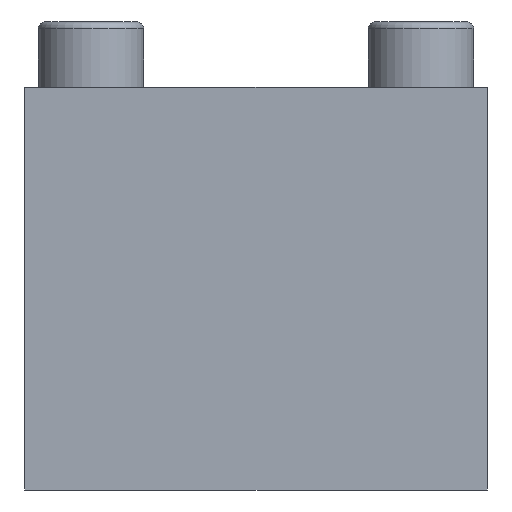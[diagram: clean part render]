
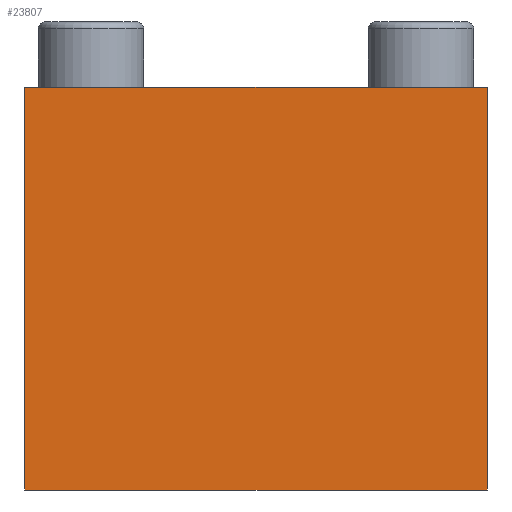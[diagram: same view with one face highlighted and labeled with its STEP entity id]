
A CAD part, front view. The second image highlights one B-rep face of the part: STEP entity #23807.
In plain terms, the highlighted planar face has unit normal (0, -1, 0).
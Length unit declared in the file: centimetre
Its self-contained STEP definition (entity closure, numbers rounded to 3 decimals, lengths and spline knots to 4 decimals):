
#2525=FACE_OUTER_BOUND('',#3805,.T.);
#3805=EDGE_LOOP('',(#16159,#16160,#16161,#16162));
#5257=LINE('',#30826,#7861);
#5261=LINE('',#30835,#7865);
#5262=LINE('',#30836,#7866);
#5263=LINE('',#30837,#7867);
#7861=VECTOR('',#26139,6.1);
#7865=VECTOR('',#26145,6.1);
#7866=VECTOR('',#26146,7.);
#7867=VECTOR('',#26147,7.);
#10529=VERTEX_POINT('',#30824);
#10530=VERTEX_POINT('',#30825);
#10533=VERTEX_POINT('',#30833);
#10534=VERTEX_POINT('',#30834);
#12789=EDGE_CURVE('',#10529,#10530,#5257,.T.);
#12793=EDGE_CURVE('',#10533,#10534,#5261,.T.);
#12794=EDGE_CURVE('',#10529,#10533,#5262,.T.);
#12795=EDGE_CURVE('',#10534,#10530,#5263,.T.);
#16159=ORIENTED_EDGE('',*,*,#12793,.F.);
#16160=ORIENTED_EDGE('',*,*,#12794,.F.);
#16161=ORIENTED_EDGE('',*,*,#12789,.T.);
#16162=ORIENTED_EDGE('',*,*,#12795,.F.);
#22885=PLANE('',#25091);
#23807=ADVANCED_FACE('',(#2525),#22885,.T.);
#25091=AXIS2_PLACEMENT_3D('',#30832,#26143,#26144);
#26139=DIRECTION('',(0.,0.,-1.));
#26143=DIRECTION('center_axis',(0.,-1.,0.));
#26144=DIRECTION('ref_axis',(-1.,0.,0.));
#26145=DIRECTION('',(0.,0.,-1.));
#26146=DIRECTION('',(1.,0.,0.));
#26147=DIRECTION('',(-1.,0.,0.));
#30824=CARTESIAN_POINT('',(-3.5,-18.5,4.85));
#30825=CARTESIAN_POINT('',(-3.5,-18.5,-1.25));
#30826=CARTESIAN_POINT('',(-3.5,-18.5,0.));
#30832=CARTESIAN_POINT('Origin',(3.5,-18.5,3.6));
#30833=CARTESIAN_POINT('',(3.5,-18.5,4.85));
#30834=CARTESIAN_POINT('',(3.5,-18.5,-1.25));
#30835=CARTESIAN_POINT('',(3.5,-18.5,0.));
#30836=CARTESIAN_POINT('',(3.5,-18.5,4.85));
#30837=CARTESIAN_POINT('',(3.5,-18.5,-1.25));
